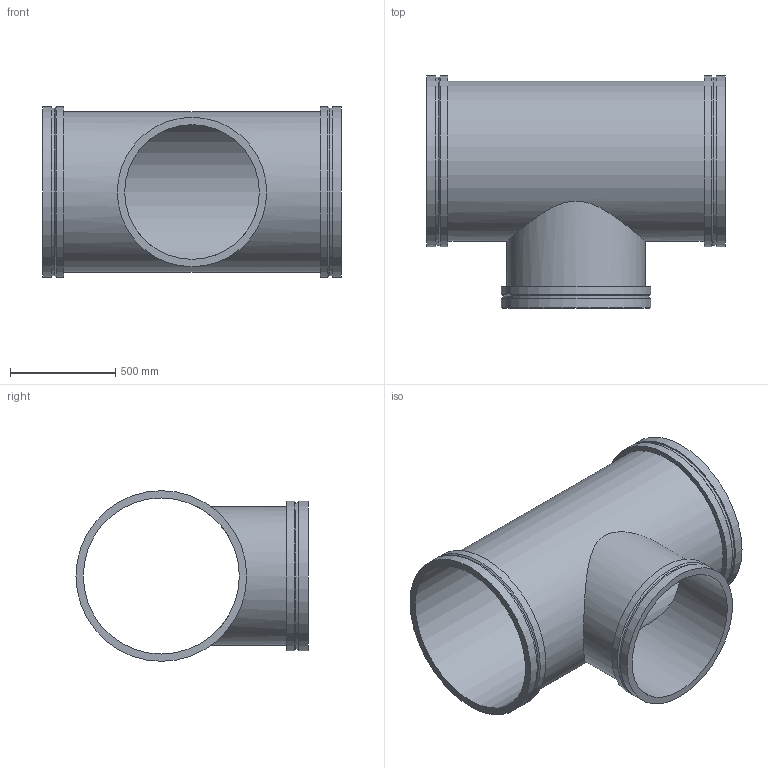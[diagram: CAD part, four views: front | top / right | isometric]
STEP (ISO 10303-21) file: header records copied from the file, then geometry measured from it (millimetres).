
FILE_DESCRIPTION(/* description */ ('VIC REDUCING TEE No W025 VR','CAx-IF Rec.Pracs.---Representation and Presentation of Product Manufacturing Information (PMI)---4.0---2014-10-13'),/* implementation_level */ '2;1');
FILE_NAME(/* name */ 'C:\Users\kkamble\AppData\Roaming\Autodesk\ApplicationPlugins\Back Up\Victaulic_Vic-Ring_Tee Reducing_No W25 VR (AGR)\Victaulic_Vic-Ring_Tee Reducing_No W25 VR (AGR)_30.0x26.0 (750x650).stp',/* time_stamp */ '2020-09-10T11:54:26+05:00',/* author */ ('mchristi'),/* organization */ ('Victaulic'),/* preprocessor_version */ 'ST-DEVELOPER v17.2',/* originating_system */ 'Autodesk Inventor 2019',/* authorisation */ '');
FILE_SCHEMA (('AP242_MANAGED_MODEL_BASED_3D_ENGINEERING_MIM_LF { 1 0 10303 442 1 1 4 }'));
Length unit declared in the file: inch
Products named in the file (1): W25 VR-30.0x26.0
Bounding box: 1422.4 x 1104.9 x 812.8 mm (x, y, z)
Volume: 53839375.9 mm3; surface area: 8184241.4 mm2
Topology: 1 solids, 1 shells, 25 faces, 68 edges, 52 vertices
Faces by surface type: cylinder 13, plane 9, cone 3
Full cylindrical faces by diameter (mm): 641.35 x1, 660.4 x1, 696.722 x1, 711.2 x2, 742.95 x1, 762 x1, 798.322 x2, 812.8 x4
Entity records: 1267 total; most frequent: CARTESIAN_POINT 423, DIRECTION 190, ORIENTED_EDGE 136, AXIS2_PLACEMENT_3D 87, EDGE_CURVE 68, VERTEX_POINT 52, CIRCLE 48, EDGE_LOOP 36
